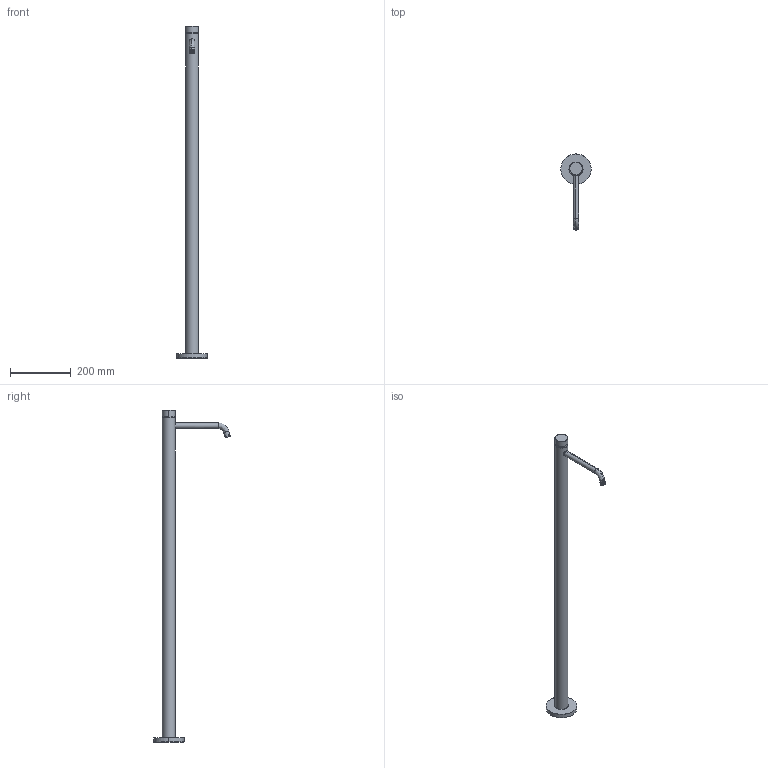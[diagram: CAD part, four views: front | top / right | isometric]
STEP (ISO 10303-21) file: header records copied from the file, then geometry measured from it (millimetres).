
FILE_DESCRIPTION(('STEP AP203'),'2;1');
FILE_NAME('DIS_3D_L536B+D736A.stp','2023-02-21T12:31:17',(''),(''),'2015.2.119','THINKDESIGN','');
FILE_SCHEMA(('CONFIG_CONTROL_DESIGN'));
Length unit declared in the file: millimetre
Bounding box: 100 x 252 x 1090.4 mm (x, y, z)
Volume: 1675168 mm3; surface area: 186592.4 mm2
Topology: 5 solids, 5 shells, 593 faces, 1361 edges, 881 vertices
Faces by surface type: cylinder 325, plane 244, bspline 24
Full cylindrical faces by diameter (mm): 38.379 x1, 42.5 x1, 46 x1
Entity records: 17842 total; most frequent: CARTESIAN_POINT 3561, DIRECTION 3381, ORIENTED_EDGE 2718, AXIS2_PLACEMENT_3D 1465, EDGE_CURVE 1359, CIRCLE 896, VERTEX_POINT 881, EDGE_LOOP 698
